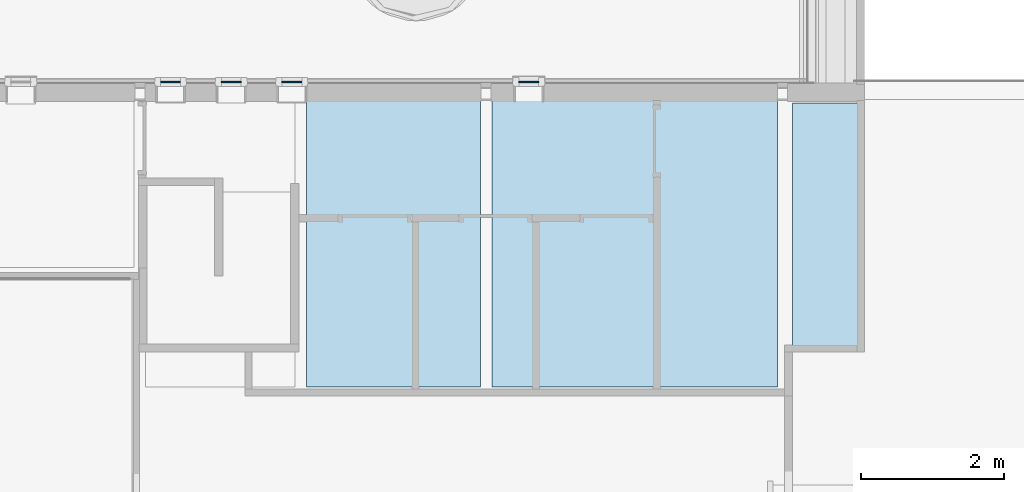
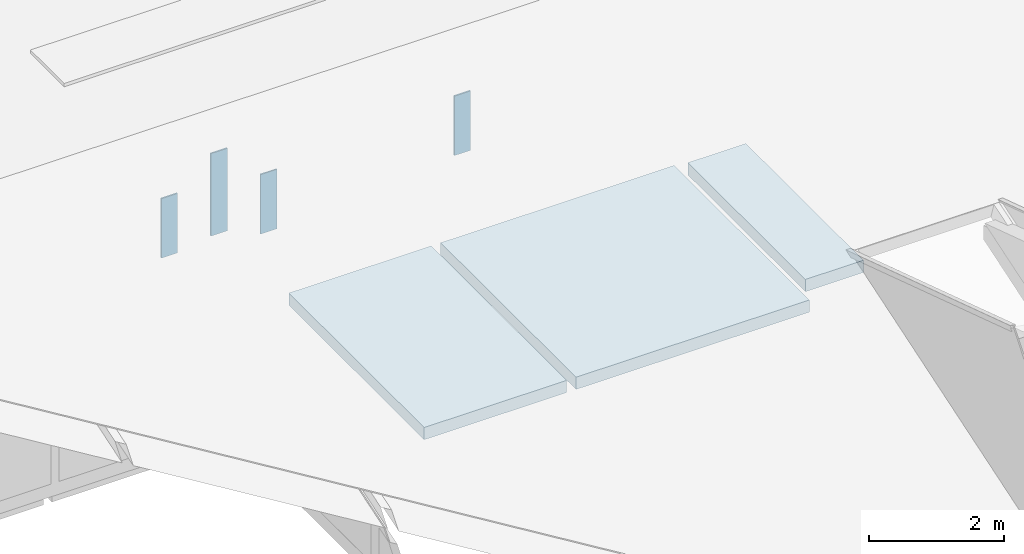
# One storey, part 11 of 66: 4 plates, 3 slabs, 4 elements without a shape of their own.
"""IFC2X3 building model written with IfcOpenShell, lengths in millimetres."""

from ifc_helpers import new_model, entity, si_unit, converted_unit, derived_unit, direction, frame, frame_2d, origin, origin_2d_with_axis, place, context, subcontext, project, spatial, rectangle, extrude, source, transform, mapped, material, layer, layer_set, layer_usage, type_object, type_shapes, element, aggregate, save


model = new_model("IFC2X3")

# Units and contexts
model_context = context("Model", 3, precision=0.01, world=origin(), true_north=direction((6.12303176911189e-17, 1.0)))
body_context = subcontext(model_context, "Body", "Model", "MODEL_VIEW")
ifc_project = project(units=[si_unit("LENGTHUNIT", "METRE", prefix="MILLI"), si_unit("AREAUNIT", "SQUARE_METRE"), si_unit("VOLUMEUNIT", "CUBIC_METRE"), converted_unit("PLANEANGLEUNIT", "DEGREE", entity("IfcRatioMeasure", 0.0174532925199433), si_unit("PLANEANGLEUNIT", "RADIAN"), dimensions=[0, 0, 0, 0, 0, 0, 0]), si_unit("MASSUNIT", "GRAM", prefix="KILO"), derived_unit("MASSDENSITYUNIT", [(si_unit("MASSUNIT", "GRAM", prefix="KILO"), 1), (si_unit("LENGTHUNIT", "METRE"), -3)]), derived_unit("MOMENTOFINERTIAUNIT", [(si_unit("LENGTHUNIT", "METRE"), 4)]), si_unit("TIMEUNIT", "SECOND"), si_unit("FREQUENCYUNIT", "HERTZ"), si_unit("THERMODYNAMICTEMPERATUREUNIT", "DEGREE_CELSIUS"), derived_unit("THERMALTRANSMITTANCEUNIT", [(si_unit("MASSUNIT", "GRAM", prefix="KILO"), 1), (si_unit("THERMODYNAMICTEMPERATUREUNIT", "KELVIN"), -1), (si_unit("TIMEUNIT", "SECOND"), -3)]), derived_unit("VOLUMETRICFLOWRATEUNIT", [(si_unit("LENGTHUNIT", "METRE"), 3), (si_unit("TIMEUNIT", "SECOND"), -1)]), si_unit("ELECTRICCURRENTUNIT", "AMPERE"), si_unit("ELECTRICVOLTAGEUNIT", "VOLT"), si_unit("POWERUNIT", "WATT"), si_unit("FORCEUNIT", "NEWTON", prefix="KILO"), si_unit("ILLUMINANCEUNIT", "LUX"), si_unit("LUMINOUSFLUXUNIT", "LUMEN"), si_unit("LUMINOUSINTENSITYUNIT", "CANDELA"), derived_unit("USERDEFINED", [(si_unit("MASSUNIT", "GRAM", prefix="KILO"), -1), (si_unit("LENGTHUNIT", "METRE"), -2), (si_unit("TIMEUNIT", "SECOND"), 3), (si_unit("LUMINOUSFLUXUNIT", "LUMEN"), 1)]), derived_unit("LINEARVELOCITYUNIT", [(si_unit("LENGTHUNIT", "METRE"), 1), (si_unit("TIMEUNIT", "SECOND"), -1)]), si_unit("PRESSUREUNIT", "PASCAL"), derived_unit("USERDEFINED", [(si_unit("LENGTHUNIT", "METRE"), -2), (si_unit("MASSUNIT", "GRAM", prefix="KILO"), 1), (si_unit("TIMEUNIT", "SECOND"), -2)]), derived_unit("LINEARFORCEUNIT", [(si_unit("MASSUNIT", "GRAM", prefix="KILO"), 1), (si_unit("LENGTHUNIT", "METRE"), 1), (si_unit("TIMEUNIT", "SECOND"), -2), (si_unit("LENGTHUNIT", "METRE"), -1)]), derived_unit("PLANARFORCEUNIT", [(si_unit("MASSUNIT", "GRAM", prefix="KILO"), 1), (si_unit("LENGTHUNIT", "METRE"), 1), (si_unit("TIMEUNIT", "SECOND"), -2), (si_unit("LENGTHUNIT", "METRE"), -2)])], contexts=[model_context])

# Site, building, storey
site_placement = place(None, origin())
site = spatial("IfcSite", under=ifc_project, at=site_placement, Name="Default", CompositionType="ELEMENT")
building_placement = place(site_placement, origin())
building = spatial("IfcBuilding", under=site, at=building_placement, Name="-", CompositionType="ELEMENT")
storey_placement = place(building_placement, frame((0.0, 0.0, 3070.0)))
storey = spatial("IfcBuildingStorey", under=building, at=storey_placement, Name="01 eerste verdieping", CompositionType="ELEMENT", Elevation=3070.00000000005)

# Curtain wall, plate
curtain_wall_type = type_object("IfcCurtainWallType", Name="Curtain Wall:NLRS_31_WIN_UN_houten kozijn vrij indeelbaar_gen_aly", PredefinedType="NOTDEFINED")
curtain_wall_1_placement = place(storey_placement, frame((0.0, 0.0, -3070.0)))
curtain_wall_1 = element("IfcCurtainWall", 1, at=curtain_wall_1_placement, inside=storey, type_object=curtain_wall_type, Name="Curtain Wall:NLRS_31_WIN_UN_houten kozijn vrij indeelbaar_gen_aly", ObjectType="Curtain Wall:NLRS_31_WIN_UN_houten kozijn vrij indeelbaar_gen_aly")
ifc_material_1 = material(Name="NLRS_o5_glas")
plate_type_1 = type_object("IfcPlateType", Name="System Panel:31_Geïsoleerd glas 25mm", PredefinedType="CURTAIN_PANEL", material=ifc_material_1)
shared_shape_1 = source(origin(), body_context, "Body", "SweptSolid", [
    extrude(rectangle(XDim=25.0, YDim=278.000000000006, at=origin_2d_with_axis()), frame((0.0, 0.0, 0.0), z_axis=(0.0, 0.0, 1.0), x_axis=(0.0, 1.0, 0.0)), (0.0, 0.0, 1.0), 1077.00000000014),
])
type_shapes(plate_type_1, [shared_shape_1])
plate_1_placement = place(curtain_wall_1_placement, frame((19061.6948343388, 10417.1240954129, 4251.0)))
plate_1 = element("IfcPlate", 2, at=plate_1_placement, type_object=plate_type_1, material=ifc_material_1, Name="System Panel:31_Geïsoleerd glas 25mm", ObjectType="System Panel:31_Geïsoleerd glas 25mm", context=body_context, shape_type="MappedRepresentation", body=[
    mapped(shared_shape_1, transform((0.0, 0.0, 0.0), scale=1.0)),
])
aggregate(curtain_wall_1, [plate_1])

curtain_wall_2_placement = place(storey_placement, frame((0.0, 0.0, -3070.0)))
curtain_wall_2 = element("IfcCurtainWall", 3, at=curtain_wall_2_placement, inside=storey, type_object=curtain_wall_type, Name="Curtain Wall:NLRS_31_WIN_UN_houten kozijn vrij indeelbaar_gen_aly", ObjectType="Curtain Wall:NLRS_31_WIN_UN_houten kozijn vrij indeelbaar_gen_aly")
plate_2_placement = place(curtain_wall_2_placement, frame((20761.6948343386, 10417.1240954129, 4091.0)))
plate_2 = element("IfcPlate", 4, at=plate_2_placement, type_object=plate_type_1, material=ifc_material_1, Name="System Panel:31_Geïsoleerd glas 25mm", ObjectType="System Panel:31_Geïsoleerd glas 25mm", context=body_context, shape_type="MappedRepresentation", body=[
    mapped(shared_shape_1, transform((0.0, 0.0, 0.0), scale=1.0)),
])
aggregate(curtain_wall_2, [plate_2])

curtain_wall_3_placement = place(storey_placement, frame((0.0, 0.0, -3070.0)))
curtain_wall_3 = element("IfcCurtainWall", 5, at=curtain_wall_3_placement, inside=storey, type_object=curtain_wall_type, Name="Curtain Wall:NLRS_31_WIN_UN_houten kozijn vrij indeelbaar_gen_aly", ObjectType="Curtain Wall:NLRS_31_WIN_UN_houten kozijn vrij indeelbaar_gen_aly")
plate_3_placement = place(curtain_wall_3_placement, frame((24080.0, 10417.1240954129, 4351.0)))
plate_3 = element("IfcPlate", 6, at=plate_3_placement, type_object=plate_type_1, material=ifc_material_1, Name="System Panel:31_Geïsoleerd glas 25mm", ObjectType="System Panel:31_Geïsoleerd glas 25mm", context=body_context, shape_type="MappedRepresentation", body=[
    mapped(shared_shape_1, transform((0.0, 0.0, 0.0), scale=1.0)),
])
aggregate(curtain_wall_3, [plate_3])

# Slabs
ifc_material_2 = material(Name="NLRS_i2_hout naaldhout vuren_gen")
ifc_layer = layer(ifc_material_2, 221.0)
ifc_layer_set = layer_set([ifc_layer], Name="Floor:NLRS_23_FL_Houten balk laag 221mm")
ifc_layer_usage_1 = layer_usage(ifc_layer_set, "AXIS3", "POSITIVE", 0.0)
slab_type_1 = type_object("IfcSlabType", Name="Floor:NLRS_23_FL_Houten balk laag 221mm", PredefinedType="FLOOR", material=ifc_layer_set)
slab_1_placement = place(storey_placement, origin())
element("IfcSlab", 7, at=slab_1_placement, inside=storey, type_object=slab_type_1, material=ifc_layer_usage_1, Name="Floor:NLRS_23_FL_Houten balk laag 221mm", ObjectType="Floor:NLRS_23_FL_Houten balk laag 221mm", PredefinedType="FLOOR", context=body_context, shape_type="SweptSolid", body=[
    extrude(rectangle(XDim=4015.45821548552, YDim=3996.79999999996, at=origin_2d_with_axis()), frame((25563.2462249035, 8155.89498765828, -18.0), z_axis=(0.0, 0.0, -1.0), x_axis=(0.0, 1.0, 0.0)), (0.0, 0.0, 1.0), 221.0),
])
ifc_layer_usage_2 = layer_usage(ifc_layer_set, "AXIS3", "POSITIVE", 0.0)
slab_type_2 = type_object("IfcSlabType", Name="Floor:NLRS_23_FL_Houten balk laag 221mm", PredefinedType="FLOOR", material=ifc_layer_set)
slab_2_placement = place(storey_placement, origin())
element("IfcSlab", 8, at=slab_2_placement, inside=storey, type_object=slab_type_2, material=ifc_layer_usage_2, Name="Floor:NLRS_23_FL_Houten balk laag 221mm", ObjectType="Floor:NLRS_23_FL_Houten balk laag 221mm", PredefinedType="FLOOR", context=body_context, shape_type="SweptSolid", body=[
    extrude(rectangle(XDim=4015.45821548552, YDim=2439.65139056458, at=frame_2d((-5.6843418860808e-13, 0.0), x_axis=(1.0, 0.0))), frame((22185.0205296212, 8155.89498765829, -18.0), z_axis=(0.0, 0.0, -1.0), x_axis=(0.0, 1.0, 0.0)), (0.0, 0.0, 1.0), 221.0),
])
ifc_layer_usage_3 = layer_usage(ifc_layer_set, "AXIS3", "POSITIVE", 0.0)
slab_type_3 = type_object("IfcSlabType", Name="Floor:NLRS_23_FL_Houten balk laag 221mm", PredefinedType="FLOOR", material=ifc_layer_set)
slab_3_placement = place(storey_placement, origin())
element("IfcSlab", 9, at=slab_3_placement, inside=storey, type_object=slab_type_3, material=ifc_layer_usage_3, Name="Floor:NLRS_23_FL_Houten balk laag 221mm", ObjectType="Floor:NLRS_23_FL_Houten balk laag 221mm", PredefinedType="FLOOR", context=body_context, shape_type="SweptSolid", body=[
    extrude(rectangle(XDim=3486.89573311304, YDim=993.348609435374, at=frame_2d((5.6843418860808e-13, 0.0), x_axis=(1.0, 0.0))), frame((28271.5205296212, 8380.17622884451, -18.0), z_axis=(0.0, 0.0, -1.0), x_axis=(0.0, 1.0, 0.0)), (0.0, 0.0, 1.0), 221.0),
])

# Curtain wall, plate
curtain_wall_4_placement = place(storey_placement, frame((0.0, 0.0, -3070.0)))
curtain_wall_4 = element("IfcCurtainWall", 10, at=curtain_wall_4_placement, inside=storey, type_object=curtain_wall_type, Name="Curtain Wall:NLRS_31_WIN_UN_houten kozijn vrij indeelbaar_gen_aly", ObjectType="Curtain Wall:NLRS_31_WIN_UN_houten kozijn vrij indeelbaar_gen_aly")
plate_type_2 = type_object("IfcPlateType", Name="System Panel:31_Geïsoleerd glas 25mm", PredefinedType="CURTAIN_PANEL", material=ifc_material_1)
shared_shape_2 = source(origin(), body_context, "Body", "SweptSolid", [
    extrude(rectangle(XDim=25.0, YDim=278.000000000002, at=origin_2d_with_axis()), frame((0.0, 0.0, 0.0), z_axis=(0.0, 0.0, 1.0), x_axis=(0.0, 1.0, 0.0)), (0.0, 0.0, 1.0), 1496.0),
])
type_shapes(plate_type_2, [shared_shape_2])
plate_4_placement = place(curtain_wall_4_placement, frame((19911.6948343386, 10417.1240954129, 4351.0)))
plate_4 = element("IfcPlate", 11, at=plate_4_placement, type_object=plate_type_2, material=ifc_material_1, Name="System Panel:31_Geïsoleerd glas 25mm", ObjectType="System Panel:31_Geïsoleerd glas 25mm", context=body_context, shape_type="MappedRepresentation", body=[
    mapped(shared_shape_2, transform((0.0, 0.0, 0.0), scale=1.0)),
])
aggregate(curtain_wall_4, [plate_4])

save(model, "model.ifc")
